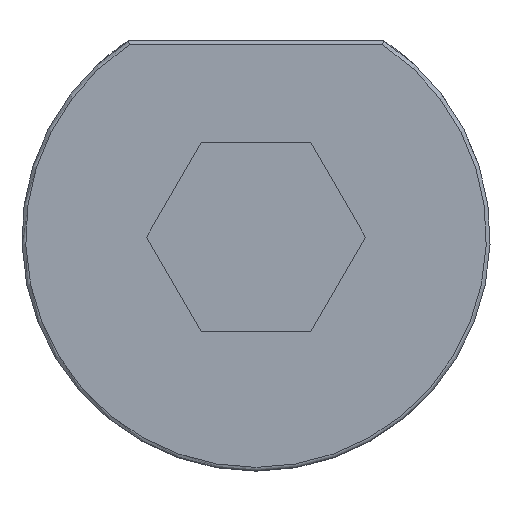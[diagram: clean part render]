
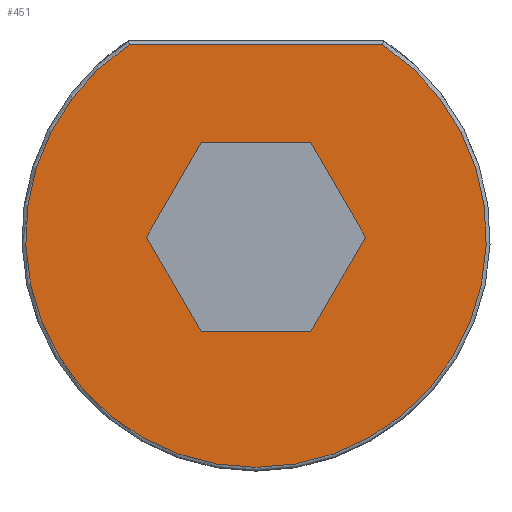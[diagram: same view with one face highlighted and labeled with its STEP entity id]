
A CAD part, front view. The second image highlights one B-rep face of the part: STEP entity #451.
In plain terms, the highlighted planar face has unit normal (0, -1, 0).
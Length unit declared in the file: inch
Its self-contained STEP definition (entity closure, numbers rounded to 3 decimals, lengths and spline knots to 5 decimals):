
#19=FACE_BOUND('',#85,.T.);
#22=PLANE('',#494);
#34=CIRCLE('',#491,0.6075);
#58=FACE_OUTER_BOUND('',#84,.T.);
#84=EDGE_LOOP('',(#317,#318));
#85=EDGE_LOOP('',(#319,#320,#321,#322,#323,#324));
#123=LINE('',#664,#158);
#127=LINE('',#708,#162);
#128=LINE('',#710,#163);
#129=LINE('',#712,#164);
#130=LINE('',#714,#165);
#131=LINE('',#716,#166);
#132=LINE('',#717,#167);
#158=VECTOR('',#537,0.3937);
#162=VECTOR('',#553,0.3937);
#163=VECTOR('',#554,0.3937);
#164=VECTOR('',#555,0.3937);
#165=VECTOR('',#556,0.3937);
#166=VECTOR('',#557,0.3937);
#167=VECTOR('',#558,0.3937);
#193=VERTEX_POINT('',#662);
#194=VERTEX_POINT('',#663);
#199=VERTEX_POINT('',#706);
#200=VERTEX_POINT('',#707);
#201=VERTEX_POINT('',#709);
#202=VERTEX_POINT('',#711);
#203=VERTEX_POINT('',#713);
#204=VERTEX_POINT('',#715);
#237=EDGE_CURVE('',#193,#194,#123,.T.);
#242=EDGE_CURVE('',#194,#193,#34,.T.);
#246=EDGE_CURVE('',#199,#200,#127,.T.);
#247=EDGE_CURVE('',#200,#201,#128,.T.);
#248=EDGE_CURVE('',#201,#202,#129,.T.);
#249=EDGE_CURVE('',#202,#203,#130,.T.);
#250=EDGE_CURVE('',#203,#204,#131,.T.);
#251=EDGE_CURVE('',#204,#199,#132,.T.);
#317=ORIENTED_EDGE('',*,*,#237,.F.);
#318=ORIENTED_EDGE('',*,*,#242,.F.);
#319=ORIENTED_EDGE('',*,*,#246,.T.);
#320=ORIENTED_EDGE('',*,*,#247,.T.);
#321=ORIENTED_EDGE('',*,*,#248,.T.);
#322=ORIENTED_EDGE('',*,*,#249,.T.);
#323=ORIENTED_EDGE('',*,*,#250,.T.);
#324=ORIENTED_EDGE('',*,*,#251,.T.);
#451=ADVANCED_FACE('',(#58,#19),#22,.T.);
#491=AXIS2_PLACEMENT_3D('',#698,#543,#544);
#494=AXIS2_PLACEMENT_3D('',#705,#551,#552);
#537=DIRECTION('',(1.,0.,0.));
#543=DIRECTION('center_axis',(0.,1.,0.));
#544=DIRECTION('ref_axis',(0.,0.,-1.));
#551=DIRECTION('center_axis',(0.,-1.,0.));
#552=DIRECTION('ref_axis',(0.,0.,-1.));
#553=DIRECTION('',(1.,0.,0.));
#554=DIRECTION('',(0.5,0.,-0.866));
#555=DIRECTION('',(-0.5,0.,-0.866));
#556=DIRECTION('',(-1.,0.,0.));
#557=DIRECTION('',(-0.5,0.,0.866));
#558=DIRECTION('',(0.5,0.,0.866));
#662=CARTESIAN_POINT('',(-0.33392,0.,0.5075));
#663=CARTESIAN_POINT('',(0.33392,0.,0.5075));
#664=CARTESIAN_POINT('',(0.37335,0.,0.5075));
#698=CARTESIAN_POINT('Origin',(0.,0.,0.));
#705=CARTESIAN_POINT('Origin',(0.,0.,0.));
#706=CARTESIAN_POINT('',(-0.14434,0.,0.25));
#707=CARTESIAN_POINT('',(0.14434,0.,0.25));
#708=CARTESIAN_POINT('',(-0.07217,0.,0.25));
#709=CARTESIAN_POINT('',(0.28868,0.,0.));
#710=CARTESIAN_POINT('',(0.18042,0.,0.1875));
#711=CARTESIAN_POINT('',(0.14434,0.,-0.25));
#712=CARTESIAN_POINT('',(0.25259,0.,-0.0625));
#713=CARTESIAN_POINT('',(-0.14434,0.,-0.25));
#714=CARTESIAN_POINT('',(0.07217,0.,-0.25));
#715=CARTESIAN_POINT('',(-0.28868,0.,0.));
#716=CARTESIAN_POINT('',(-0.18042,0.,-0.1875));
#717=CARTESIAN_POINT('',(-0.25259,0.,0.0625));
